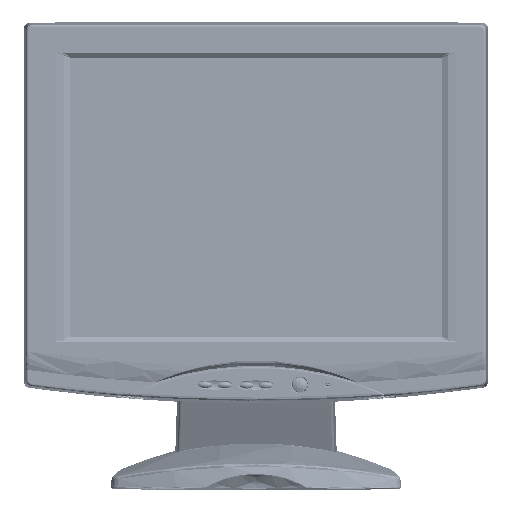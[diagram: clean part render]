
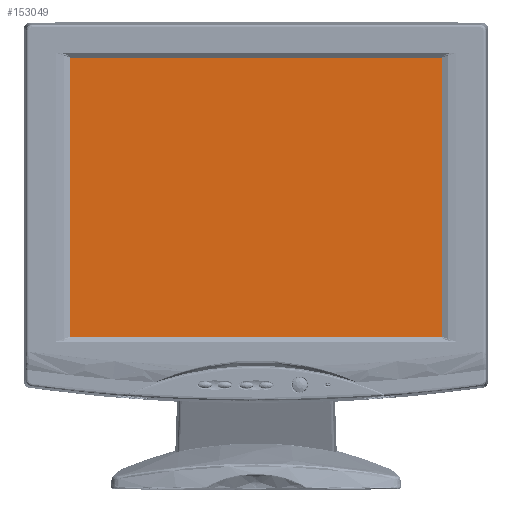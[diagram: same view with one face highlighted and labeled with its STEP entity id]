
A CAD part, top view. The second image highlights one B-rep face of the part: STEP entity #153049.
In plain terms, the highlighted planar face has unit normal (0, 0, 1).
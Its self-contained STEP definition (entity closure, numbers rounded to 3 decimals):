
#7389 = ORIENTED_EDGE ( 'NONE', *, *, #116444, .F. ) ;
#8246 = DIRECTION ( 'NONE',  ( -1., 0., 0. ) ) ;
#11225 = CARTESIAN_POINT ( 'NONE',  ( -165.5, 8.235, -4. ) ) ;
#11603 = EDGE_LOOP ( 'NONE', ( #137354, #89186, #369316, #7389, #400200, #222218, #335728, #299342 ) ) ;
#15702 = LINE ( 'NONE', #327340, #80770 ) ;
#17338 = DIRECTION ( 'NONE',  ( 0., 1., 0. ) ) ;
#24077 = EDGE_CURVE ( 'NONE', #84400, #210420, #387260, .T. ) ;
#55704 = VERTEX_POINT ( 'NONE', #333997 ) ;
#60030 = CARTESIAN_POINT ( 'NONE',  ( 0., 8.235, -4. ) ) ;
#62983 = VECTOR ( 'NONE', #17338, 1000. ) ;
#78764 = DIRECTION ( 'NONE',  ( 0., 1., 0. ) ) ;
#80770 = VECTOR ( 'NONE', #8246, 1000. ) ;
#84400 = VERTEX_POINT ( 'NONE', #99297 ) ;
#89186 = ORIENTED_EDGE ( 'NONE', *, *, #170508, .F. ) ;
#90681 = VECTOR ( 'NONE', #78764, 1000. ) ;
#92434 = VERTEX_POINT ( 'NONE', #11225 ) ;
#93982 = EDGE_CURVE ( 'NONE', #241310, #92434, #263185, .T. ) ;
#97033 = CARTESIAN_POINT ( 'NONE',  ( -165.5, 125., -4. ) ) ;
#98844 = AXIS2_PLACEMENT_3D ( 'NONE', #329641, #170133, #393962 ) ;
#99297 = CARTESIAN_POINT ( 'NONE',  ( -165.5, -8.235, -4. ) ) ;
#105612 = PLANE ( 'NONE',  #98844 ) ;
#108246 = VECTOR ( 'NONE', #321057, 1000. ) ;
#115413 = LINE ( 'NONE', #315040, #200697 ) ;
#116444 = EDGE_CURVE ( 'NONE', #92434, #55704, #285497, .T. ) ;
#117194 = CARTESIAN_POINT ( 'NONE',  ( 0., -8.235, -4. ) ) ;
#121434 = FACE_OUTER_BOUND ( 'NONE', #11603, .T. ) ;
#123202 = DIRECTION ( 'NONE',  ( 0., -1., 0. ) ) ;
#126945 = EDGE_CURVE ( 'NONE', #404491, #84400, #383418, .T. ) ;
#132976 = EDGE_CURVE ( 'NONE', #187210, #404491, #15702, .T. ) ;
#137354 = ORIENTED_EDGE ( 'NONE', *, *, #132976, .F. ) ;
#141705 = CARTESIAN_POINT ( 'NONE',  ( -164.725, 0., -4. ) ) ;
#149483 = DIRECTION ( 'NONE',  ( 1., 0., 0. ) ) ;
#153049 = ADVANCED_FACE ( 'NONE', ( #121434 ), #105612, .F. ) ;
#170133 = DIRECTION ( 'NONE',  ( 0., 0., -1. ) ) ;
#170508 = EDGE_CURVE ( 'NONE', #396388, #187210, #115413, .T. ) ;
#175864 = LINE ( 'NONE', #141705, #90681 ) ;
#182436 = CARTESIAN_POINT ( 'NONE',  ( -164.725, -8.235, -4. ) ) ;
#187210 = VERTEX_POINT ( 'NONE', #326358 ) ;
#200697 = VECTOR ( 'NONE', #123202, 1000. ) ;
#207083 = VECTOR ( 'NONE', #149483, 1000. ) ;
#209173 = CARTESIAN_POINT ( 'NONE',  ( -165.5, -125., -4. ) ) ;
#210420 = VERTEX_POINT ( 'NONE', #182436 ) ;
#218393 = CARTESIAN_POINT ( 'NONE',  ( -164.725, 8.235, -4. ) ) ;
#222218 = ORIENTED_EDGE ( 'NONE', *, *, #224490, .F. ) ;
#224490 = EDGE_CURVE ( 'NONE', #210420, #241310, #175864, .T. ) ;
#229364 = EDGE_CURVE ( 'NONE', #55704, #396388, #353744, .T. ) ;
#241310 = VERTEX_POINT ( 'NONE', #218393 ) ;
#253231 = VECTOR ( 'NONE', #380495, 1000. ) ;
#263185 = LINE ( 'NONE', #60030, #253231 ) ;
#266229 = CARTESIAN_POINT ( 'NONE',  ( -165.5, -125., -4. ) ) ;
#285497 = LINE ( 'NONE', #266229, #360419 ) ;
#298416 = DIRECTION ( 'NONE',  ( 0., 1., 0. ) ) ;
#299342 = ORIENTED_EDGE ( 'NONE', *, *, #126945, .F. ) ;
#315040 = CARTESIAN_POINT ( 'NONE',  ( 162.5, 125., -4. ) ) ;
#321057 = DIRECTION ( 'NONE',  ( 1., 0., 0. ) ) ;
#326152 = CARTESIAN_POINT ( 'NONE',  ( -165.5, -125., -4. ) ) ;
#326358 = CARTESIAN_POINT ( 'NONE',  ( 162.5, -125., -4. ) ) ;
#327340 = CARTESIAN_POINT ( 'NONE',  ( 162.5, -125., -4. ) ) ;
#329641 = CARTESIAN_POINT ( 'NONE',  ( 0., 0., -4. ) ) ;
#333997 = CARTESIAN_POINT ( 'NONE',  ( -165.5, 125., -4. ) ) ;
#335728 = ORIENTED_EDGE ( 'NONE', *, *, #24077, .F. ) ;
#353744 = LINE ( 'NONE', #97033, #108246 ) ;
#360419 = VECTOR ( 'NONE', #298416, 1000. ) ;
#369316 = ORIENTED_EDGE ( 'NONE', *, *, #229364, .F. ) ;
#375326 = CARTESIAN_POINT ( 'NONE',  ( 162.5, 125., -4. ) ) ;
#380495 = DIRECTION ( 'NONE',  ( -1., 0., 0. ) ) ;
#383418 = LINE ( 'NONE', #209173, #62983 ) ;
#387260 = LINE ( 'NONE', #117194, #207083 ) ;
#393962 = DIRECTION ( 'NONE',  ( -1., 0., 0. ) ) ;
#396388 = VERTEX_POINT ( 'NONE', #375326 ) ;
#400200 = ORIENTED_EDGE ( 'NONE', *, *, #93982, .F. ) ;
#404491 = VERTEX_POINT ( 'NONE', #326152 ) ;
